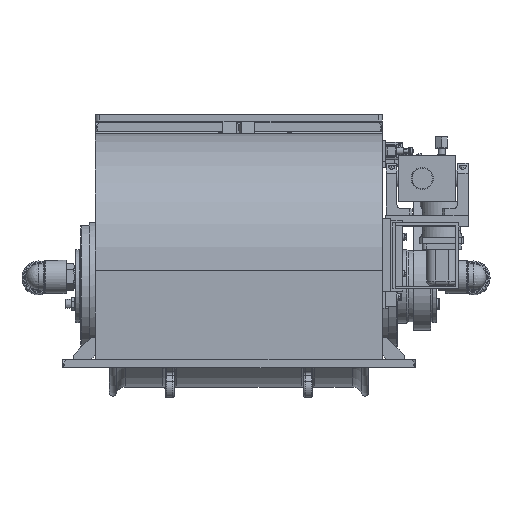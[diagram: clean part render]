
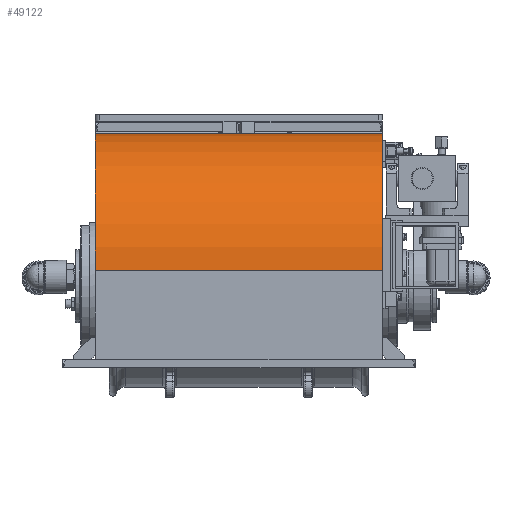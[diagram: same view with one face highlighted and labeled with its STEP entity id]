
A CAD part, front view. The second image highlights one B-rep face of the part: STEP entity #49122.
In plain terms, the highlighted cylindrical face has radius 317 mm (diameter 634 mm), a partial arc.
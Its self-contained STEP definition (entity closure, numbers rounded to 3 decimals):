
#3711=LINE('',#78970,#7927);
#3712=LINE('',#78974,#7928);
#7927=VECTOR('',#62558,10.);
#7928=VECTOR('',#62561,10.);
#12650=FACE_OUTER_BOUND('',#15588,.T.);
#15588=EDGE_LOOP('',(#38396,#38397,#38398,#38399));
#18171=CIRCLE('',#53012,317.);
#18172=CIRCLE('',#53013,317.);
#22098=VERTEX_POINT('',#78968);
#22099=VERTEX_POINT('',#78969);
#22100=VERTEX_POINT('',#78971);
#22101=VERTEX_POINT('',#78973);
#27865=EDGE_CURVE('',#22098,#22099,#3711,.T.);
#27866=EDGE_CURVE('',#22100,#22098,#18171,.T.);
#27867=EDGE_CURVE('',#22100,#22101,#3712,.T.);
#27868=EDGE_CURVE('',#22099,#22101,#18172,.T.);
#38396=ORIENTED_EDGE('',*,*,#27865,.F.);
#38397=ORIENTED_EDGE('',*,*,#27866,.F.);
#38398=ORIENTED_EDGE('',*,*,#27867,.T.);
#38399=ORIENTED_EDGE('',*,*,#27868,.F.);
#44841=CYLINDRICAL_SURFACE('',#53011,317.);
#49122=ADVANCED_FACE('',(#12650),#44841,.T.);
#53011=AXIS2_PLACEMENT_3D('',#78967,#62556,#62557);
#53012=AXIS2_PLACEMENT_3D('',#78972,#62559,#62560);
#53013=AXIS2_PLACEMENT_3D('',#78975,#62562,#62563);
#62556=DIRECTION('center_axis',(-1.,0.,0.));
#62557=DIRECTION('ref_axis',(0.,-1.,0.));
#62558=DIRECTION('',(1.,0.,0.));
#62559=DIRECTION('center_axis',(-1.,0.,0.));
#62560=DIRECTION('ref_axis',(0.,-1.,0.));
#62561=DIRECTION('',(1.,0.,0.));
#62562=DIRECTION('center_axis',(1.,0.,0.));
#62563=DIRECTION('ref_axis',(0.,0.,
1.));
#78967=CARTESIAN_POINT('Origin',(311.581,-175.37,226.5));
#78968=CARTESIAN_POINT('',(-20.919,-175.37,543.5));
#78969=CARTESIAN_POINT('',(644.081,-175.37,543.5));
#78970=CARTESIAN_POINT('',(311.581,-175.37,543.5));
#78971=CARTESIAN_POINT('',(-20.919,-492.37,226.5));
#78972=CARTESIAN_POINT('Origin',(-20.919,-175.37,226.5));
#78973=CARTESIAN_POINT('',(644.081,-492.37,226.5));
#78974=CARTESIAN_POINT('',(311.581,-492.37,226.5));
#78975=CARTESIAN_POINT('Origin',(644.081,-175.37,226.5));
